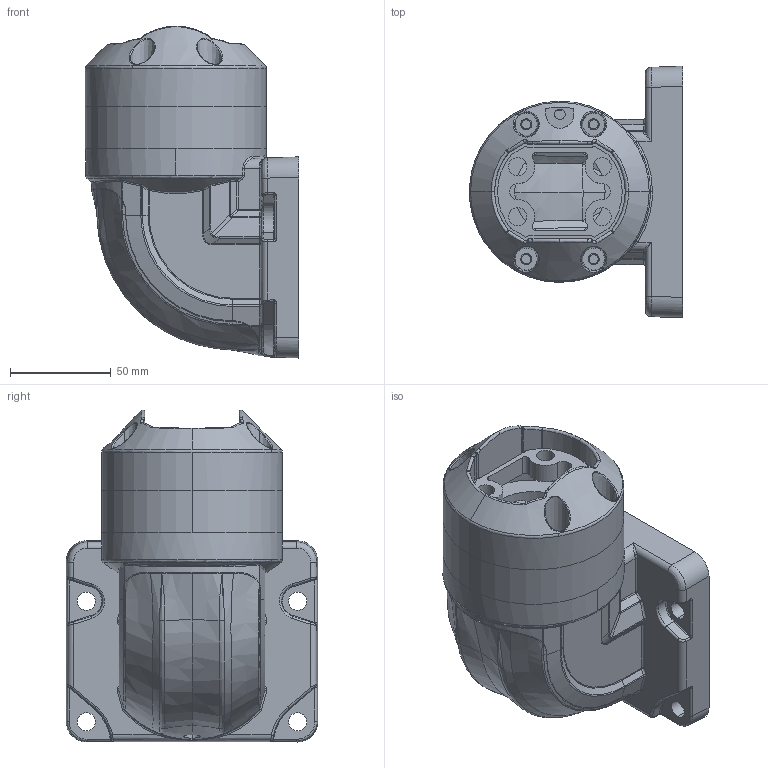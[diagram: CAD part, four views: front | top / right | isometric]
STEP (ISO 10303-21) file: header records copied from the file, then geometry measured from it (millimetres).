
FILE_DESCRIPTION (( 'STEP AP203' ), '1' );
FILE_NAME ('50-65-5070.STEP', '2019-10-03T05:25:34', ( 'User' ), ( 'Microsoft' ), 'SwSTEP 2.0', 'SolidWorks 2017', '' );
FILE_SCHEMA (( 'CONFIG_CONTROL_DESIGN' ));
Length unit declared in the file: millimetre
Products named in the file (5): 50-Х釴1; 50裔赽; 50-唅蛌菁釱2; 50-唅蛌菁釱3; 50-65-5070
Assembly tree (4 placements, depth 2):
  50-65-5070
    50-Х釴1
    50裔赽
    50-唅蛌菁釱2
    50-唅蛌菁釱3
Bounding box: 106 x 125 x 165.08 mm (x, y, z)
Volume: 432003.4 mm3; surface area: 158903.3 mm2
Topology: 4 solids, 6 shells, 785 faces, 2012 edges, 1248 vertices
Faces by surface type: cylinder 305, bspline 224, plane 224, cone 28, torus 4
Entity records: 52952 total; most frequent: CARTESIAN_POINT 35204, ORIENTED_EDGE 3996, DIRECTION 2962, EDGE_CURVE 1998, VERTEX_POINT 1247, AXIS2_PLACEMENT_3D 1102, EDGE_LOOP 855, ADVANCED_FACE 785
